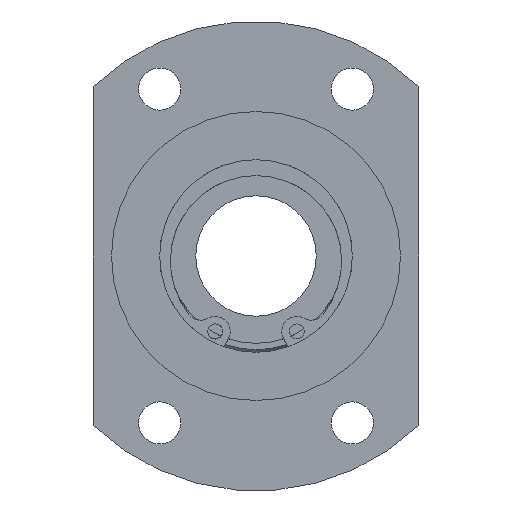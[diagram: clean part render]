
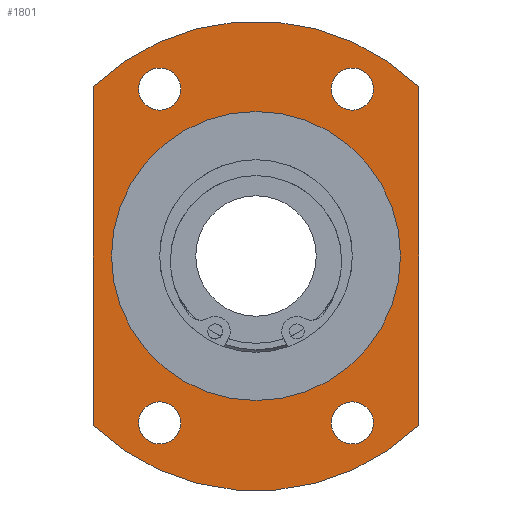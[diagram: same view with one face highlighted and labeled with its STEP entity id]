
A CAD part, left-side view. The second image highlights one B-rep face of the part: STEP entity #1801.
In plain terms, the highlighted planar face has unit normal (-1, 0, 0).
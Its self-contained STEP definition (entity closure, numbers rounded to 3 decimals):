
#1561=CARTESIAN_POINT('',(10.0,19.5,-27.713));
#1562=VERTEX_POINT('',#1561);
#1563=CARTESIAN_POINT('',(10.0,16.,-27.713));
#1564=DIRECTION('',(1.0,0.0,0.0));
#1565=DIRECTION('',(0.0,1.0,0.0));
#1566=AXIS2_PLACEMENT_3D('',#1563,#1564,#1565);
#1567=CIRCLE('',#1566,3.5);
#1568=EDGE_CURVE('',#1562,#1562,#1567,.T.);
#1589=CARTESIAN_POINT('',(10.0,-12.5,27.713));
#1590=VERTEX_POINT('',#1589);
#1591=CARTESIAN_POINT('',(10.0,-16.,27.713));
#1592=DIRECTION('',(1.0,0.0,0.0));
#1593=DIRECTION('',(0.0,1.0,0.0));
#1594=AXIS2_PLACEMENT_3D('',#1591,#1592,#1593);
#1595=CIRCLE('',#1594,3.5);
#1596=EDGE_CURVE('',#1590,#1590,#1595,.T.);
#1617=CARTESIAN_POINT('',(10.0,19.5,27.713));
#1618=VERTEX_POINT('',#1617);
#1619=CARTESIAN_POINT('',(10.0,16.,27.713));
#1620=DIRECTION('',(1.0,0.0,0.0));
#1621=DIRECTION('',(0.0,1.0,0.0));
#1622=AXIS2_PLACEMENT_3D('',#1619,#1620,#1621);
#1623=CIRCLE('',#1622,3.5);
#1624=EDGE_CURVE('',#1618,#1618,#1623,.T.);
#1645=CARTESIAN_POINT('',(10.0,-12.5,-27.713));
#1646=VERTEX_POINT('',#1645);
#1647=CARTESIAN_POINT('',(10.0,-16.,-27.713));
#1648=DIRECTION('',(1.0,0.0,0.0));
#1649=DIRECTION('',(0.0,1.0,0.0));
#1650=AXIS2_PLACEMENT_3D('',#1647,#1648,#1649);
#1651=CIRCLE('',#1650,3.5);
#1652=EDGE_CURVE('',#1646,#1646,#1651,.T.);
#1672=CARTESIAN_POINT('',(10.0,27.,-28.142));
#1673=VERTEX_POINT('',#1672);
#1680=CARTESIAN_POINT('',(10.0,27.,28.142));
#1681=VERTEX_POINT('',#1680);
#1682=CARTESIAN_POINT('',(10.0,27.,28.142));
#1683=DIRECTION('',(0.0,0.0,-1.0));
#1684=VECTOR('',#1683,56.285);
#1685=LINE('',#1682,#1684);
#1686=EDGE_CURVE('',#1681,#1673,#1685,.T.);
#1712=CARTESIAN_POINT('',(10.0,-27.,28.142));
#1713=VERTEX_POINT('',#1712);
#1720=CARTESIAN_POINT('',(10.0,-27.,-28.142));
#1721=VERTEX_POINT('',#1720);
#1722=CARTESIAN_POINT('',(10.0,-27.,-28.142));
#1723=DIRECTION('',(0.0,0.0,1.0));
#1724=VECTOR('',#1723,56.285);
#1725=LINE('',#1722,#1724);
#1726=EDGE_CURVE('',#1721,#1713,#1725,.T.);
#1751=CARTESIAN_POINT('',(10.,0.0,0.0));
#1752=DIRECTION('',(-1.0,0.0,0.0));
#1753=DIRECTION('',(0.0,0.0,1.0));
#1754=AXIS2_PLACEMENT_3D('',#1751,#1752,#1753);
#1755=CIRCLE('',#1754,39.0);
#1756=EDGE_CURVE('',#1673,#1721,#1755,.T.);
#1761=CARTESIAN_POINT('',(10.,0.0,31.5));
#1762=DIRECTION('',(-1.0,0.0,0.0));
#1763=DIRECTION('',(0.0,0.0,1.0));
#1764=AXIS2_PLACEMENT_3D('',#1761,#1762,#1763);
#1765=PLANE('',#1764);
#1766=ORIENTED_EDGE('',*,*,#1686,.T.);
#1767=ORIENTED_EDGE('',*,*,#1756,.T.);
#1768=ORIENTED_EDGE('',*,*,#1726,.T.);
#1769=CARTESIAN_POINT('',(10.,0.0,0.0));
#1770=DIRECTION('',(-1.0,0.0,0.0));
#1771=DIRECTION('',(0.0,0.0,1.0));
#1772=AXIS2_PLACEMENT_3D('',#1769,#1770,#1771);
#1773=CIRCLE('',#1772,39.0);
#1774=EDGE_CURVE('',#1713,#1681,#1773,.T.);
#1775=ORIENTED_EDGE('',*,*,#1774,.T.);
#1776=EDGE_LOOP('',(#1766,#1767,#1768,#1775));
#1777=FACE_OUTER_BOUND('',#1776,.T.);
#1778=ORIENTED_EDGE('',*,*,#1568,.T.);
#1779=EDGE_LOOP('',(#1778));
#1780=FACE_BOUND('',#1779,.T.);
#1781=ORIENTED_EDGE('',*,*,#1596,.T.);
#1782=EDGE_LOOP('',(#1781));
#1783=FACE_BOUND('',#1782,.T.);
#1784=ORIENTED_EDGE('',*,*,#1624,.T.);
#1785=EDGE_LOOP('',(#1784));
#1786=FACE_BOUND('',#1785,.T.);
#1787=ORIENTED_EDGE('',*,*,#1652,.T.);
#1788=EDGE_LOOP('',(#1787));
#1789=FACE_BOUND('',#1788,.T.);
#1790=CARTESIAN_POINT('',(10.0,0.0,24.));
#1791=VERTEX_POINT('',#1790);
#1792=CARTESIAN_POINT('',(10.0,0.0,0.0));
#1793=DIRECTION('',(-1.0,0.0,0.0));
#1794=DIRECTION('',(0.0,0.0,1.0));
#1795=AXIS2_PLACEMENT_3D('',#1792,#1793,#1794);
#1796=CIRCLE('',#1795,24.);
#1797=EDGE_CURVE('',#1791,#1791,#1796,.T.);
#1798=ORIENTED_EDGE('',*,*,#1797,.F.);
#1799=EDGE_LOOP('',(#1798));
#1800=FACE_BOUND('',#1799,.T.);
#1801=ADVANCED_FACE('',(#1777,#1780,#1783,#1786,#1789,#1800),#1765,.T.);
